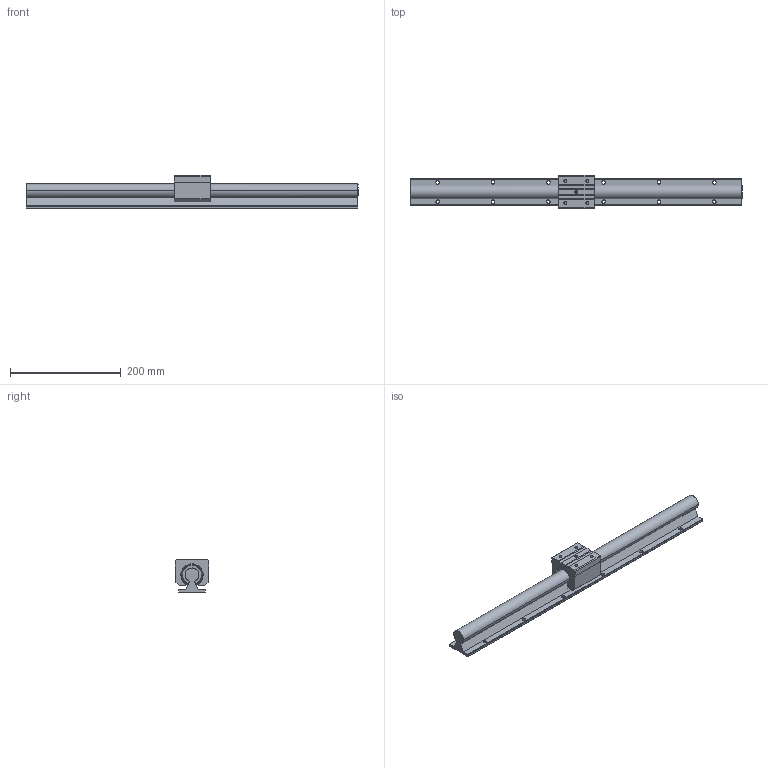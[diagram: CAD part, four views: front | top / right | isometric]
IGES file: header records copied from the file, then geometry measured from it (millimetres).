
Global section: file name: No Iges File Name specified; native system: AutoDesk Inventor R10; preprocessor: AutoDesk Inventor Iges Exporter R10; author: No Author specified; organization: No Organization specified; date: 20101221.091723; units: millimetre
Bounding box: 600 x 60 x 60 mm (x, y, z)
Surface area: 140759.6 mm2 (no closed solid volume)
Topology: 0 solids, 0 shells, 240 faces, 1616 edges, 1594 vertices
Faces by surface type: bspline 240
